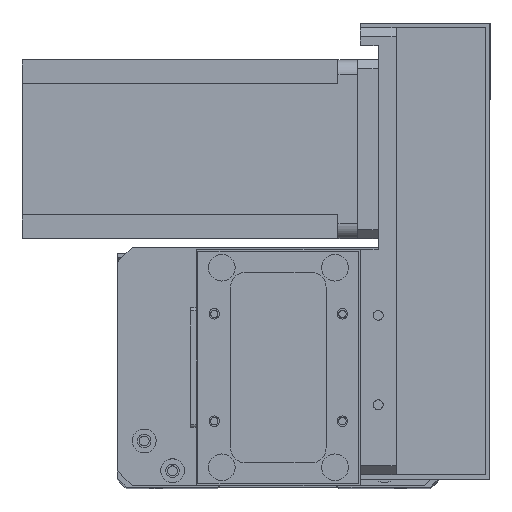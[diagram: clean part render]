
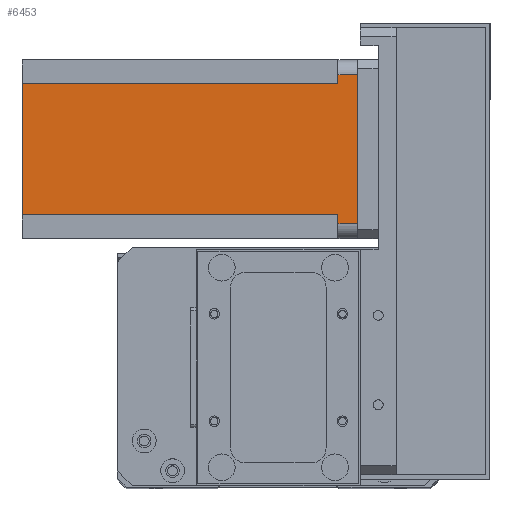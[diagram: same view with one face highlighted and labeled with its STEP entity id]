
A CAD part, top view. The second image highlights one B-rep face of the part: STEP entity #6453.
In plain terms, the highlighted planar face has unit normal (0, 0, 1) as drawn and (0, 1, 0) by its records, which use the part's own axes.
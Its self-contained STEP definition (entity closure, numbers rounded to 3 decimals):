
#1295 = CARTESIAN_POINT ( 'NONE',  ( 0., 60., -112.5 ) ) ;
#1330 = FACE_OUTER_BOUND ( 'NONE', #10237, .T. ) ;
#1420 = LINE ( 'NONE', #25455, #12451 ) ;
#1719 = DIRECTION ( 'NONE',  ( 1., 0., 0. ) ) ;
#1753 = CARTESIAN_POINT ( 'NONE',  ( 0., 60., 0. ) ) ;
#2204 = CARTESIAN_POINT ( 'NONE',  ( 52., 60., -112.5 ) ) ;
#2559 = CARTESIAN_POINT ( 'NONE',  ( 8., 60., -112.5 ) ) ;
#2982 = EDGE_CURVE ( 'NONE', #3621, #16133, #10480, .T. ) ;
#3069 = VECTOR ( 'NONE', #6697, 1000. ) ;
#3128 = CARTESIAN_POINT ( 'NONE',  ( 0., 60., -112.5 ) ) ;
#3375 = ORIENTED_EDGE ( 'NONE', *, *, #16508, .T. ) ;
#3621 = VERTEX_POINT ( 'NONE', #10449 ) ;
#4487 = CARTESIAN_POINT ( 'NONE',  ( 5., 60., -112.5 ) ) ;
#4605 = EDGE_CURVE ( 'NONE', #8047, #12247, #12101, .T. ) ;
#4720 = LINE ( 'NONE', #1753, #15732 ) ;
#4747 = DIRECTION ( 'NONE',  ( 0., 0., -1. ) ) ;
#5335 = DIRECTION ( 'NONE',  ( 0., 0., 1. ) ) ;
#6453 = ADVANCED_FACE ( 'NONE', ( #1330 ), #27217, .T. ) ;
#6697 = DIRECTION ( 'NONE',  ( 0., 0., 1. ) ) ;
#7519 = EDGE_CURVE ( 'NONE', #8047, #21225, #9926, .T. ) ;
#7670 = ORIENTED_EDGE ( 'NONE', *, *, #2982, .F. ) ;
#7957 = EDGE_CURVE ( 'NONE', #22404, #16308, #4720, .T. ) ;
#8047 = VERTEX_POINT ( 'NONE', #8676 ) ;
#8676 = CARTESIAN_POINT ( 'NONE',  ( 8., 60., -6.5 ) ) ;
#9007 = VECTOR ( 'NONE', #19519, 1000. ) ;
#9459 = CARTESIAN_POINT ( 'NONE',  ( 55., 60., 0. ) ) ;
#9926 = LINE ( 'NONE', #2559, #25366 ) ;
#10237 = EDGE_LOOP ( 'NONE', ( #22073, #3375, #7670, #13741, #10978, #11283, #10469, #18009 ) ) ;
#10449 = CARTESIAN_POINT ( 'NONE',  ( 52., 60., -6.5 ) ) ;
#10469 = ORIENTED_EDGE ( 'NONE', *, *, #4605, .T. ) ;
#10480 = LINE ( 'NONE', #14898, #16303 ) ;
#10978 = ORIENTED_EDGE ( 'NONE', *, *, #23853, .T. ) ;
#11283 = ORIENTED_EDGE ( 'NONE', *, *, #7519, .F. ) ;
#11412 = VECTOR ( 'NONE', #11900, 1000. ) ;
#11900 = DIRECTION ( 'NONE',  ( -1., 0., 0. ) ) ;
#12101 = LINE ( 'NONE', #27227, #11412 ) ;
#12247 = VERTEX_POINT ( 'NONE', #21179 ) ;
#12451 = VECTOR ( 'NONE', #27664, 1000. ) ;
#13741 = ORIENTED_EDGE ( 'NONE', *, *, #26714, .F. ) ;
#13948 = LINE ( 'NONE', #1295, #19809 ) ;
#14870 = AXIS2_PLACEMENT_3D ( 'NONE', #3128, #18502, #5335 ) ;
#14898 = CARTESIAN_POINT ( 'NONE',  ( 52., 60., -6.5 ) ) ;
#15732 = VECTOR ( 'NONE', #19454, 1000. ) ;
#16133 = VERTEX_POINT ( 'NONE', #26409 ) ;
#16303 = VECTOR ( 'NONE', #1719, 1000. ) ;
#16308 = VERTEX_POINT ( 'NONE', #23159 ) ;
#16508 = EDGE_CURVE ( 'NONE', #22404, #16133, #26522, .T. ) ;
#17291 = CARTESIAN_POINT ( 'NONE',  ( 55., 60., -112.5 ) ) ;
#18009 = ORIENTED_EDGE ( 'NONE', *, *, #18503, .T. ) ;
#18502 = DIRECTION ( 'NONE',  ( 0., 1., 0. ) ) ;
#18503 = EDGE_CURVE ( 'NONE', #12247, #16308, #20616, .T. ) ;
#19454 = DIRECTION ( 'NONE',  ( -1., 0., 0. ) ) ;
#19519 = DIRECTION ( 'NONE',  ( 0., 0., -1. ) ) ;
#19809 = VECTOR ( 'NONE', #25401, 1000. ) ;
#20451 = CARTESIAN_POINT ( 'NONE',  ( 8., 60., -112.5 ) ) ;
#20616 = LINE ( 'NONE', #4487, #3069 ) ;
#21179 = CARTESIAN_POINT ( 'NONE',  ( 5., 60., -6.5 ) ) ;
#21225 = VERTEX_POINT ( 'NONE', #20451 ) ;
#22073 = ORIENTED_EDGE ( 'NONE', *, *, #7957, .F. ) ;
#22404 = VERTEX_POINT ( 'NONE', #9459 ) ;
#23159 = CARTESIAN_POINT ( 'NONE',  ( 5., 60., 0. ) ) ;
#23853 = EDGE_CURVE ( 'NONE', #26967, #21225, #13948, .T. ) ;
#25366 = VECTOR ( 'NONE', #4747, 1000. ) ;
#25401 = DIRECTION ( 'NONE',  ( -1., 0., 0. ) ) ;
#25455 = CARTESIAN_POINT ( 'NONE',  ( 52., 60., -112.5 ) ) ;
#26409 = CARTESIAN_POINT ( 'NONE',  ( 55., 60., -6.5 ) ) ;
#26522 = LINE ( 'NONE', #17291, #9007 ) ;
#26714 = EDGE_CURVE ( 'NONE', #26967, #3621, #1420, .T. ) ;
#26967 = VERTEX_POINT ( 'NONE', #2204 ) ;
#27217 = PLANE ( 'NONE',  #14870 ) ;
#27227 = CARTESIAN_POINT ( 'NONE',  ( 8., 60., -6.5 ) ) ;
#27664 = DIRECTION ( 'NONE',  ( 0., 0., 1. ) ) ;
